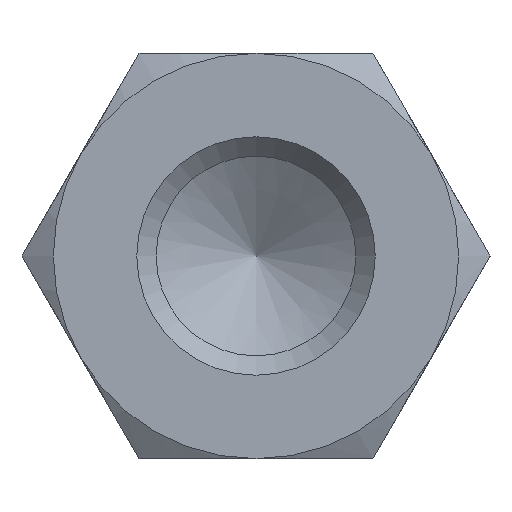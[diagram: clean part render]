
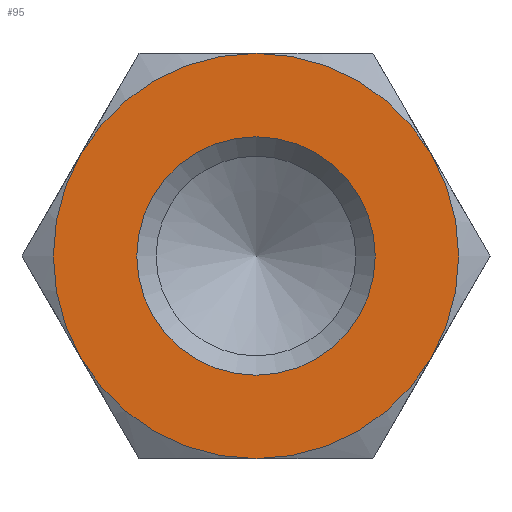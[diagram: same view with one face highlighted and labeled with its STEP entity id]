
A CAD part, left-side view. The second image highlights one B-rep face of the part: STEP entity #95.
In plain terms, the highlighted planar face has unit normal (-1, 0, 0).
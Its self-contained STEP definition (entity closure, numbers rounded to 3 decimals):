
#95 = ADVANCED_FACE( '', ( #147, #148 ), #149, .F. );
#147 = FACE_OUTER_BOUND( '', #206, .T. );
#148 = FACE_BOUND( '', #207, .T. );
#149 = PLANE( '', #208 );
#206 = EDGE_LOOP( '', ( #356, #357, #358, #359, #360, #361 ) );
#207 = EDGE_LOOP( '', ( #362 ) );
#208 = AXIS2_PLACEMENT_3D( '', #363, #364, #365 );
#356 = ORIENTED_EDGE( '', *, *, #440, .F. );
#357 = ORIENTED_EDGE( '', *, *, #425, .F. );
#358 = ORIENTED_EDGE( '', *, *, #441, .F. );
#359 = ORIENTED_EDGE( '', *, *, #437, .F. );
#360 = ORIENTED_EDGE( '', *, *, #442, .F. );
#361 = ORIENTED_EDGE( '', *, *, #443, .F. );
#362 = ORIENTED_EDGE( '', *, *, #439, .T. );
#363 = CARTESIAN_POINT( '', ( -35., 0., 0. ) );
#364 = DIRECTION( '', ( 1., 0., 0. ) );
#365 = DIRECTION( '', ( 0., 0., -1. ) );
#425 = EDGE_CURVE( '', #495, #493, #497, .T. );
#437 = EDGE_CURVE( '', #447, #506, #513, .T. );
#439 = EDGE_CURVE( '', #516, #516, #517, .T. );
#440 = EDGE_CURVE( '', #493, #486, #518, .T. );
#441 = EDGE_CURVE( '', #506, #495, #519, .T. );
#442 = EDGE_CURVE( '', #481, #447, #520, .T. );
#443 = EDGE_CURVE( '', #486, #481, #521, .T. );
#447 = VERTEX_POINT( '', #525 );
#481 = VERTEX_POINT( '', #607 );
#486 = VERTEX_POINT( '', #623 );
#493 = VERTEX_POINT( '', #650 );
#495 = VERTEX_POINT( '', #657 );
#497 = CIRCLE( '', #664, 8.5 );
#506 = VERTEX_POINT( '', #690 );
#513 = CIRCLE( '', #733, 8.5 );
#516 = VERTEX_POINT( '', #736 );
#517 = CIRCLE( '', #737, 5. );
#518 = CIRCLE( '', #738, 8.5 );
#519 = CIRCLE( '', #739, 8.5 );
#520 = CIRCLE( '', #740, 8.5 );
#521 = CIRCLE( '', #741, 8.5 );
#525 = CARTESIAN_POINT( '', ( -35., -7.361, 4.25 ) );
#607 = CARTESIAN_POINT( '', ( -35., 0., 8.5 ) );
#623 = CARTESIAN_POINT( '', ( -35., 7.361, 4.25 ) );
#650 = CARTESIAN_POINT( '', ( -35., 7.361, -4.25 ) );
#657 = CARTESIAN_POINT( '', ( -35., 0., -8.5 ) );
#664 = AXIS2_PLACEMENT_3D( '', #776, #777, #778 );
#690 = CARTESIAN_POINT( '', ( -35., -7.361, -4.25 ) );
#733 = AXIS2_PLACEMENT_3D( '', #781, #782, #783 );
#736 = CARTESIAN_POINT( '', ( -35., 0., -5. ) );
#737 = AXIS2_PLACEMENT_3D( '', #787, #788, #789 );
#738 = AXIS2_PLACEMENT_3D( '', #790, #791, #792 );
#739 = AXIS2_PLACEMENT_3D( '', #793, #794, #795 );
#740 = AXIS2_PLACEMENT_3D( '', #796, #797, #798 );
#741 = AXIS2_PLACEMENT_3D( '', #799, #800, #801 );
#776 = CARTESIAN_POINT( '', ( -35., 0., 0. ) );
#777 = DIRECTION( '', ( 1., 0., 0. ) );
#778 = DIRECTION( '', ( 0., 0., -1. ) );
#781 = CARTESIAN_POINT( '', ( -35., 0., 0. ) );
#782 = DIRECTION( '', ( 1., 0., 0. ) );
#783 = DIRECTION( '', ( 0., 0., -1. ) );
#787 = CARTESIAN_POINT( '', ( -35., 0., 0. ) );
#788 = DIRECTION( '', ( 1., 0., 0. ) );
#789 = DIRECTION( '', ( 0., 0., -1. ) );
#790 = CARTESIAN_POINT( '', ( -35., 0., 0. ) );
#791 = DIRECTION( '', ( 1., 0., 0. ) );
#792 = DIRECTION( '', ( 0., 0., -1. ) );
#793 = CARTESIAN_POINT( '', ( -35., 0., 0. ) );
#794 = DIRECTION( '', ( 1., 0., 0. ) );
#795 = DIRECTION( '', ( 0., 0., -1. ) );
#796 = CARTESIAN_POINT( '', ( -35., 0., 0. ) );
#797 = DIRECTION( '', ( 1., 0., 0. ) );
#798 = DIRECTION( '', ( 0., 0., -1. ) );
#799 = CARTESIAN_POINT( '', ( -35., 0., 0. ) );
#800 = DIRECTION( '', ( 1., 0., 0. ) );
#801 = DIRECTION( '', ( 0., 0., -1. ) );
